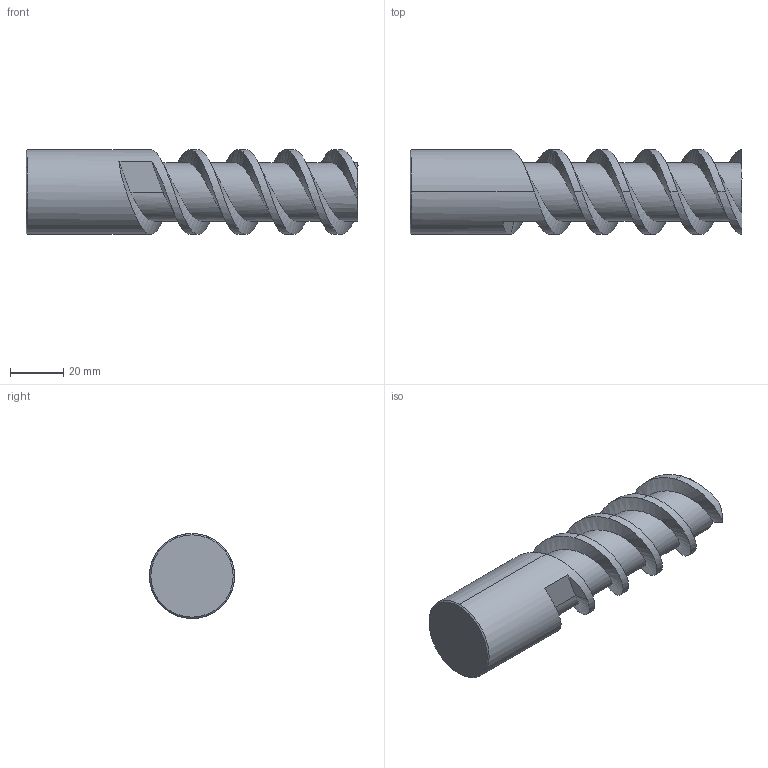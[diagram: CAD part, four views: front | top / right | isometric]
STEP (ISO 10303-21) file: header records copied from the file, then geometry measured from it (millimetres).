
FILE_DESCRIPTION (( 'STEP AP214' ), '1' );
FILE_NAME ('E2122_32_125.STEP', '2013-04-10T07:09:56', ( '' ), ( '' ), 'SwSTEP 2.0', 'SolidWorks 2013', '' );
FILE_SCHEMA (( 'AUTOMOTIVE_DESIGN' ));
Length unit declared in the file: millimetre
Products named in the file (1): E2122_32_125
Bounding box: 125 x 32 x 32 mm (x, y, z)
Volume: 73635.2 mm3; surface area: 15216.5 mm2
Topology: 1 solids, 1 shells, 26 faces, 66 edges, 42 vertices
Faces by surface type: cylinder 10, plane 8, bspline 6, cone 2
Entity records: 5944 total; most frequent: CARTESIAN_POINT 5117, ORIENTED_EDGE 132, DIRECTION 78, EDGE_CURVE 66, VERTEX_POINT 42, UNCERTAINTY_MEASURE_WITH_UNIT 29, STYLED_ITEM 28, MECHANICAL_DESIGN_GEOMETRIC_PRESENTATION_REPRESENTATION 28
